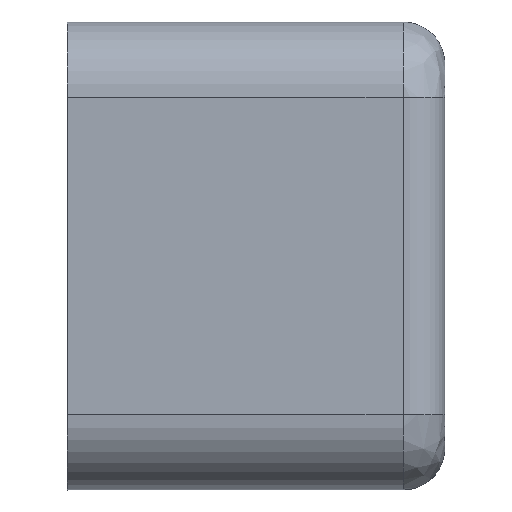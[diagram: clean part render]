
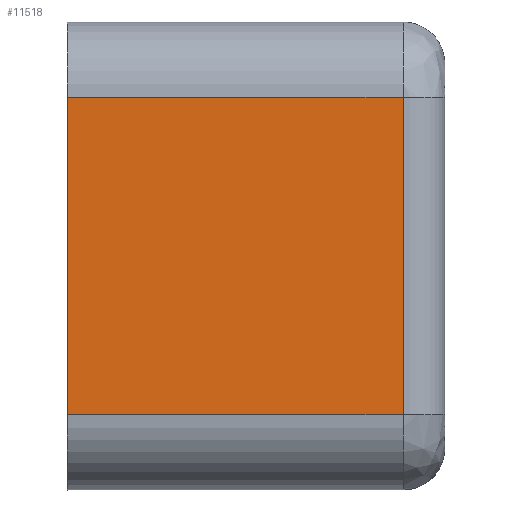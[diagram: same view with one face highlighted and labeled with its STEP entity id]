
A CAD part, top view. The second image highlights one B-rep face of the part: STEP entity #11518.
In plain terms, the highlighted planar face has unit normal (0, 0, 1).
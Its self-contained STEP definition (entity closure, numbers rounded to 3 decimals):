
#3725=DIRECTION('',(-1.,0.,0.));
#3726=VECTOR('',#3725,40.219);
#3727=CARTESIAN_POINT('',(5.538,13.595,25.25));
#3728=LINE('',#3727,#3726);
#3739=DIRECTION('',(0.,1.,0.));
#3740=VECTOR('',#3739,38.);
#3741=CARTESIAN_POINT('',(-34.681,-24.405,
25.25));
#3742=LINE('',#3741,#3740);
#3753=DIRECTION('',(1.,0.,0.));
#3754=VECTOR('',#3753,40.219);
#3755=CARTESIAN_POINT('',(-34.681,-24.405,
25.25));
#3756=LINE('',#3755,#3754);
#3812=DIRECTION('',(0.,1.,0.));
#3813=VECTOR('',#3812,38.);
#3814=CARTESIAN_POINT('',(5.538,-24.405,25.25));
#3815=LINE('',#3814,#3813);
#10011=CARTESIAN_POINT('',(-34.681,13.595,
25.25));
#10012=VERTEX_POINT('',#10011);
#10013=CARTESIAN_POINT('',(-34.681,-24.405,
25.25));
#10014=VERTEX_POINT('',#10013);
#10023=CARTESIAN_POINT('',(5.538,13.595,25.25));
#10024=VERTEX_POINT('',#10023);
#10025=CARTESIAN_POINT('',(5.538,-24.405,
25.25));
#10026=VERTEX_POINT('',#10025);
#11505=CARTESIAN_POINT('',(-27.681,7.755,
25.25));
#11506=DIRECTION('',(0.,0.,-1.));
#11507=DIRECTION('',(0.,-1.,0.));
#11508=AXIS2_PLACEMENT_3D('',#11505,#11506,#11507);
#11509=PLANE('',#11508);
#11511=ORIENTED_EDGE('',*,*,#11510,.F.);
#11512=ORIENTED_EDGE('',*,*,#11459,.T.);
#11513=ORIENTED_EDGE('',*,*,#11496,.F.);
#11515=ORIENTED_EDGE('',*,*,#11514,.F.);
#11516=EDGE_LOOP('',(#11511,#11512,#11513,#11515));
#11517=FACE_OUTER_BOUND('',#11516,.F.);
#11518=ADVANCED_FACE('',(#11517),#11509,.F.);
#11459=EDGE_CURVE('',#10014,#10012,#3742,.T.);
#11496=EDGE_CURVE('',#10024,#10012,#3728,.T.);
#11510=EDGE_CURVE('',#10014,#10026,#3756,.T.);
#11514=EDGE_CURVE('',#10026,#10024,#3815,.T.);
